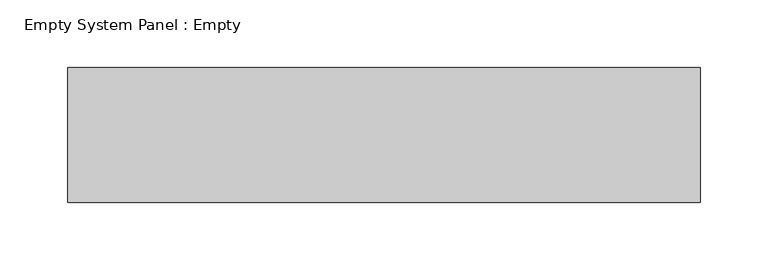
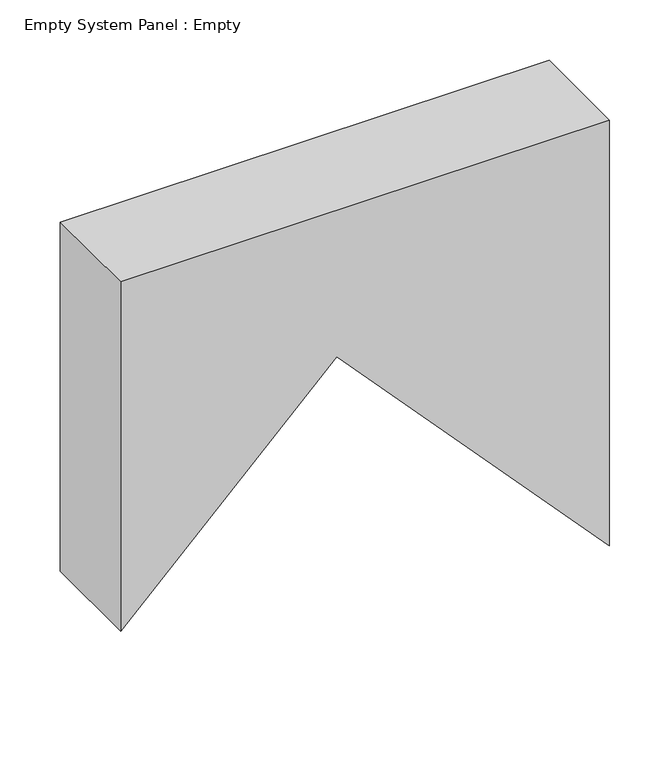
"""IFC4 building model written with IfcOpenShell, lengths in millimetres: plate geometry, Empty System Panel : Empty."""

from ifc_helpers import new_model, si_unit, frame, origin, place, context, project, spatial, polyline, outline, extrude, source, transform, mapped, element, save


def empty_system_panel_empty_b4e748d5(model_context):
    return source(origin(), model_context, "Body", "SweptSolid", [
        extrude(outline(polyline([(283.0463472, -26.760153), (0.0, 234.1589868), (431.2898915, 234.1589868), (431.2898915, -234.1589868), (77.6231969, -234.1589868), (283.0463472, -26.760153)])), frame((0.0, -50.0, 0.0), z_axis=(0.0, 1.0, 0.0), x_axis=(0.0, 0.0, 1.0)), (0.0, 0.0, 1.0), 100.0),
    ])


if __name__ == "__main__":
    model = new_model("IFC4")
    model_context = context("Model", 3, world=origin())
    ifc_project = project(units=[si_unit("LENGTHUNIT", "METRE", prefix="MILLI")], contexts=[model_context])
    site = spatial("IfcSite", under=ifc_project)
    building = spatial("IfcBuilding", under=site)
    placement = place(None, origin())
    empty_system_panel_empty_shape = empty_system_panel_empty_b4e748d5(model_context)
    element("IfcPlate", 1, ObjectType="Empty System Panel : Empty", at=placement, inside=building, context=model_context, shape_type="MappedRepresentation", body=[
        mapped(empty_system_panel_empty_shape, transform((0.0, 0.0, 0.0), x_axis=(1.0, 0.0, 0.0), y_axis=(0.0, 1.0, 0.0), z_axis=(0.0, 0.0, 1.0))),
    ])
    save(model, "model.ifc")
